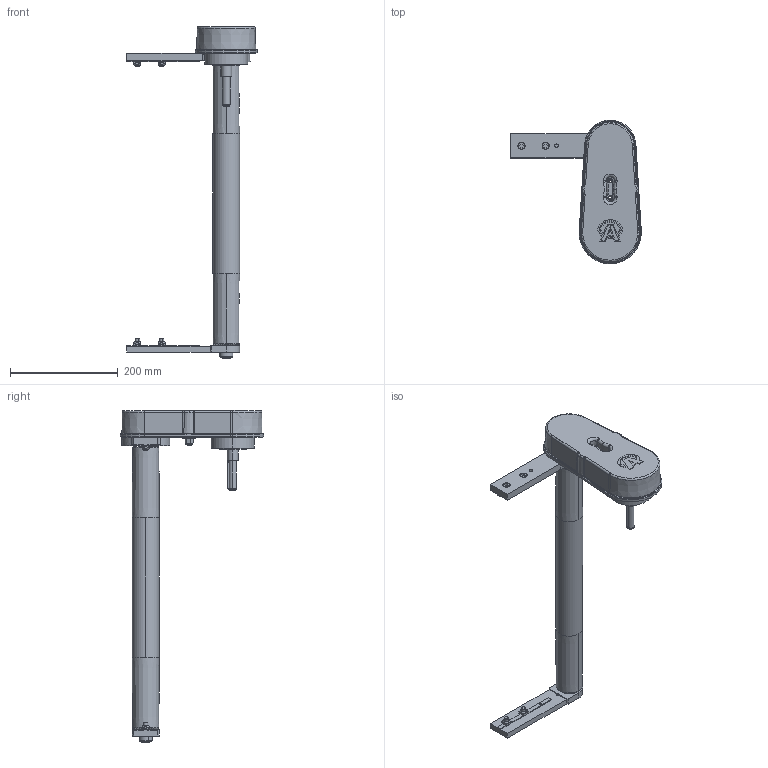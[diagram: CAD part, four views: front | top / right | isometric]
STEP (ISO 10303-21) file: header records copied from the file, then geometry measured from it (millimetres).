
FILE_DESCRIPTION (( 'STEP AP203' ), '1' );
FILE_NAME ('084.050.KTB.30.500.STEP', '2019-07-29T13:34:52', ( '' ), ( '' ), 'SwSTEP 2.0', 'SolidWorks 2018', '' );
FILE_SCHEMA (( 'CONFIG_CONTROL_DESIGN' ));
Length unit declared in the file: millimetre
Products named in the file (25): 084.811.004; 084.809.001; 084.050.KTB.30.500; 084.813.001; Circlip DIN 471 - 8 x 0.8_Circlip DIN 471 - 8 x 0.8; 084.810.006; 084.802.017_084.802.017; RONDELLE FASCIA LARGA UNI 6593_8.4x24 UNI 6593; 084.301.000 VITI ALUSIC_084.301.003; 084.815.120_Default<A macchina>; CHIAVETTE_A 5x5x50 UNI 6604-69; 084.810.001; DADI ESAGONALI AUTOBLOCCANTI UNI 7473_M8 UNI 7473; CUSCINETTI A SFERE_608-2RS; 084.807.002_084.807.002; 084.802.034_084.802.034; 084.810.008; 084.832.001; 084.809.004; 084.807.001_084.807.001; 084.821.002; 084.821.003; 084.802.021; 084.813.006; 084.302.000 DADI ALUSIC 13x13_084.302.004
Assembly tree (34 placements, depth 3):
  084.050.KTB.30.500
    084.815.120_Default<A macchina>
    084.811.004
    084.813.001
    084.810.001  x2
    084.802.034_084.802.034
    084.802.017_084.802.017
    084.807.001_084.807.001
    084.807.002_084.807.002
    084.809.004
    084.813.006
    084.802.021
    084.809.001
    084.301.000 VITI ALUSIC_084.301.003  x4
    084.302.000 DADI ALUSIC 13x13_084.302.004  x4
    CHIAVETTE_A 5x5x50 UNI 6604-69
    084.821.002  x2
    084.810.006
      084.810.008
      CUSCINETTI A SFERE_608-2RS  x3
      Circlip DIN 471 - 8 x 0.8_Circlip DIN 471 - 8 x 0.8
      RONDELLE FASCIA LARGA UNI 6593_8.4x24 UNI 6593
      DADI ESAGONALI AUTOBLOCCANTI UNI 7473_M8 UNI 7473
    084.821.003
    084.832.001
Bounding box: 242.75 x 267 x 617 mm (x, y, z)
Volume: 1153655.4 mm3; surface area: 628202.2 mm2
Topology: 38 solids, 39 shells, 1724 faces, 4501 edges, 2911 vertices
Faces by surface type: plane 733, cylinder 616, torus 176, cone 156, bspline 34, sphere 9
Entity records: 46307 total; most frequent: CARTESIAN_POINT 9387, DIRECTION 7418, ORIENTED_EDGE 6984, EDGE_CURVE 3492, AXIS2_PLACEMENT_3D 2779, VERTEX_POINT 2254, LINE 1860, VECTOR 1860
